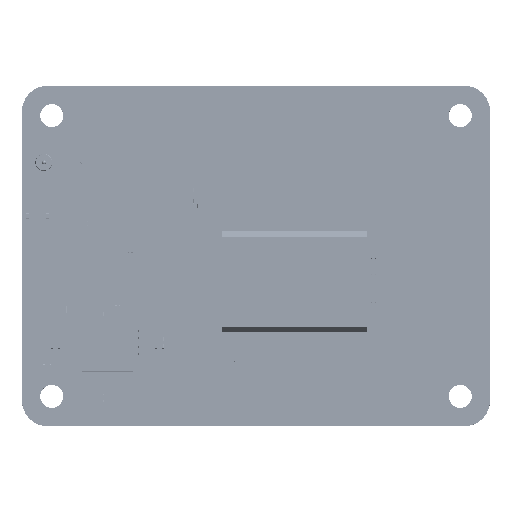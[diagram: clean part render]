
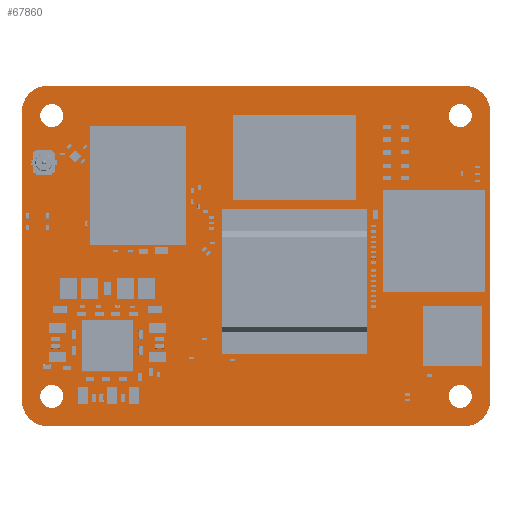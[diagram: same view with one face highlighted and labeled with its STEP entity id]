
A CAD part, top view. The second image highlights one B-rep face of the part: STEP entity #67860.
In plain terms, the highlighted planar face has unit normal (0, 0, 1).
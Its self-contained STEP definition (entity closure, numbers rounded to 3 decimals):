
#67860=ADVANCED_FACE('',(#97065,#97066,#97067,#97068,#97069),#97070,.T.);
#97065=FACE_OUTER_BOUND('',#130393,.T.);
#97066=FACE_BOUND('',#130394,.T.);
#97067=FACE_BOUND('',#130395,.T.);
#97068=FACE_BOUND('',#130396,.T.);
#97069=FACE_BOUND('',#130397,.T.);
#97070=PLANE('',#130398);
#130393=EDGE_LOOP('',(#163077,#163078,#163079,#163080,#163081,#163082,#163083,#163084));
#130394=EDGE_LOOP('',(#163085,#163086));
#130395=EDGE_LOOP('',(#163087,#163088));
#130396=EDGE_LOOP('',(#163089,#163090));
#130397=EDGE_LOOP('',(#163091,#163092));
#130398=AXIS2_PLACEMENT_3D('',#163093,#163094,#163095);
#163077=ORIENTED_EDGE('',*,*,#188045,.T.);
#163078=ORIENTED_EDGE('',*,*,#188046,.T.);
#163079=ORIENTED_EDGE('',*,*,#188047,.T.);
#163080=ORIENTED_EDGE('',*,*,#188048,.T.);
#163081=ORIENTED_EDGE('',*,*,#188049,.T.);
#163082=ORIENTED_EDGE('',*,*,#188050,.T.);
#163083=ORIENTED_EDGE('',*,*,#188051,.T.);
#163084=ORIENTED_EDGE('',*,*,#188052,.T.);
#163085=ORIENTED_EDGE('',*,*,#188053,.F.);
#163086=ORIENTED_EDGE('',*,*,#188032,.F.);
#163087=ORIENTED_EDGE('',*,*,#188054,.F.);
#163088=ORIENTED_EDGE('',*,*,#188036,.F.);
#163089=ORIENTED_EDGE('',*,*,#188055,.F.);
#163090=ORIENTED_EDGE('',*,*,#188040,.F.);
#163091=ORIENTED_EDGE('',*,*,#188056,.F.);
#163092=ORIENTED_EDGE('',*,*,#188044,.F.);
#163093=CARTESIAN_POINT('',(27.5,20.0,1.076));
#163094=DIRECTION('',(0.0,0.0,1.0));
#163095=DIRECTION('',(1.0,0.0,0.0));
#188032=EDGE_CURVE('',#221101,#221097,#221103,.T.);
#188036=EDGE_CURVE('',#221109,#221105,#221111,.T.);
#188040=EDGE_CURVE('',#221117,#221113,#221119,.T.);
#188044=EDGE_CURVE('',#221125,#221121,#221127,.T.);
#188045=EDGE_CURVE('',#221128,#221129,#221130,.T.);
#188046=EDGE_CURVE('',#221129,#221131,#221132,.T.);
#188047=EDGE_CURVE('',#221131,#221133,#221134,.T.);
#188048=EDGE_CURVE('',#221133,#221135,#221136,.T.);
#188049=EDGE_CURVE('',#221135,#221137,#221138,.T.);
#188050=EDGE_CURVE('',#221137,#221139,#221140,.T.);
#188051=EDGE_CURVE('',#221139,#221141,#221142,.T.);
#188052=EDGE_CURVE('',#221141,#221128,#221143,.T.);
#188053=EDGE_CURVE('',#221097,#221101,#221144,.T.);
#188054=EDGE_CURVE('',#221105,#221109,#221145,.T.);
#188055=EDGE_CURVE('',#221113,#221117,#221146,.T.);
#188056=EDGE_CURVE('',#221121,#221125,#221147,.T.);
#221097=VERTEX_POINT('',#246927);
#221101=VERTEX_POINT('',#246932);
#221103=CIRCLE('',#246935,1.35);
#221105=VERTEX_POINT('',#246937);
#221109=VERTEX_POINT('',#246942);
#221111=CIRCLE('',#246945,1.35);
#221113=VERTEX_POINT('',#246947);
#221117=VERTEX_POINT('',#246952);
#221119=CIRCLE('',#246955,1.35);
#221121=VERTEX_POINT('',#246957);
#221125=VERTEX_POINT('',#246962);
#221127=CIRCLE('',#246965,1.35);
#221128=VERTEX_POINT('',#246966);
#221129=VERTEX_POINT('',#246967);
#221130=LINE('',#246968,#246969);
#221131=VERTEX_POINT('',#246970);
#221132=CIRCLE('',#246971,3.0);
#221133=VERTEX_POINT('',#246972);
#221134=LINE('',#246973,#246974);
#221135=VERTEX_POINT('',#246975);
#221136=CIRCLE('',#246976,3.0);
#221137=VERTEX_POINT('',#246977);
#221138=LINE('',#246978,#246979);
#221139=VERTEX_POINT('',#246980);
#221140=CIRCLE('',#246981,3.0);
#221141=VERTEX_POINT('',#246982);
#221142=LINE('',#246983,#246984);
#221143=CIRCLE('',#246985,3.0);
#221144=CIRCLE('',#246986,1.35);
#221145=CIRCLE('',#246987,1.35);
#221146=CIRCLE('',#246988,1.35);
#221147=CIRCLE('',#246989,1.35);
#246927=CARTESIAN_POINT('',(2.15,3.5,1.076));
#246932=CARTESIAN_POINT('',(4.85,3.5,1.076));
#246935=AXIS2_PLACEMENT_3D('',#253892,#253893,#253894);
#246937=CARTESIAN_POINT('',(50.15,3.5,1.076));
#246942=CARTESIAN_POINT('',(52.85,3.5,1.076));
#246945=AXIS2_PLACEMENT_3D('',#253900,#253901,#253902);
#246947=CARTESIAN_POINT('',(2.15,36.5,1.076));
#246952=CARTESIAN_POINT('',(4.85,36.5,1.076));
#246955=AXIS2_PLACEMENT_3D('',#253908,#253909,#253910);
#246957=CARTESIAN_POINT('',(50.15,36.5,1.076));
#246962=CARTESIAN_POINT('',(52.85,36.5,1.076));
#246965=AXIS2_PLACEMENT_3D('',#253916,#253917,#253918);
#246966=CARTESIAN_POINT('',(52.0,40.0,1.076));
#246967=CARTESIAN_POINT('',(3.0,40.0,1.076));
#246968=CARTESIAN_POINT('',(27.5,40.0,1.076));
#246969=VECTOR('',#253919,1.0);
#246970=CARTESIAN_POINT('',(0.0,37.0,1.076));
#246971=AXIS2_PLACEMENT_3D('',#253920,#253921,#253922);
#246972=CARTESIAN_POINT('',(0.0,3.0,1.076));
#246973=CARTESIAN_POINT('',(0.0,20.0,1.076));
#246974=VECTOR('',#253923,1.0);
#246975=CARTESIAN_POINT('',(3.0,0.0,1.076));
#246976=AXIS2_PLACEMENT_3D('',#253924,#253925,#253926);
#246977=CARTESIAN_POINT('',(52.0,0.0,1.076));
#246978=CARTESIAN_POINT('',(27.5,0.0,1.076));
#246979=VECTOR('',#253927,1.0);
#246980=CARTESIAN_POINT('',(55.0,3.0,1.076));
#246981=AXIS2_PLACEMENT_3D('',#253928,#253929,#253930);
#246982=CARTESIAN_POINT('',(55.0,37.0,1.076));
#246983=CARTESIAN_POINT('',(55.0,20.0,1.076));
#246984=VECTOR('',#253931,1.0);
#246985=AXIS2_PLACEMENT_3D('',#253932,#253933,#253934);
#246986=AXIS2_PLACEMENT_3D('',#253935,#253936,#253937);
#246987=AXIS2_PLACEMENT_3D('',#253938,#253939,#253940);
#246988=AXIS2_PLACEMENT_3D('',#253941,#253942,#253943);
#246989=AXIS2_PLACEMENT_3D('',#253944,#253945,#253946);
#253892=CARTESIAN_POINT('',(3.5,3.5,1.076));
#253893=DIRECTION('',(0.0,0.0,1.0));
#253894=DIRECTION('',(-1.0,0.0,0.0));
#253900=CARTESIAN_POINT('',(51.5,3.5,1.076));
#253901=DIRECTION('',(0.0,0.0,1.0));
#253902=DIRECTION('',(-1.0,0.0,0.0));
#253908=CARTESIAN_POINT('',(3.5,36.5,1.076));
#253909=DIRECTION('',(0.0,0.0,1.0));
#253910=DIRECTION('',(-1.0,0.0,0.0));
#253916=CARTESIAN_POINT('',(51.5,36.5,1.076));
#253917=DIRECTION('',(0.0,0.0,1.0));
#253918=DIRECTION('',(-1.0,0.0,0.0));
#253919=DIRECTION('',(-1.0,0.0,0.0));
#253920=CARTESIAN_POINT('',(3.0,37.0,1.076));
#253921=DIRECTION('',(0.0,-0.0,1.0));
#253922=DIRECTION('',(0.0,1.0,0.0));
#253923=DIRECTION('',(0.0,-1.0,0.0));
#253924=CARTESIAN_POINT('',(3.0,3.0,1.076));
#253925=DIRECTION('',(0.0,0.0,1.0));
#253926=DIRECTION('',(-1.0,0.0,0.0));
#253927=DIRECTION('',(1.0,0.0,0.0));
#253928=CARTESIAN_POINT('',(52.0,3.0,1.076));
#253929=DIRECTION('',(0.0,0.0,1.0));
#253930=DIRECTION('',(0.0,-1.0,0.0));
#253931=DIRECTION('',(0.0,1.0,0.0));
#253932=CARTESIAN_POINT('',(52.0,37.0,1.076));
#253933=DIRECTION('',(0.0,0.0,1.0));
#253934=DIRECTION('',(1.0,0.0,0.0));
#253935=CARTESIAN_POINT('',(3.5,3.5,1.076));
#253936=DIRECTION('',(0.0,0.0,1.0));
#253937=DIRECTION('',(-1.0,0.0,0.0));
#253938=CARTESIAN_POINT('',(51.5,3.5,1.076));
#253939=DIRECTION('',(0.0,0.0,1.0));
#253940=DIRECTION('',(-1.0,0.0,0.0));
#253941=CARTESIAN_POINT('',(3.5,36.5,1.076));
#253942=DIRECTION('',(0.0,0.0,1.0));
#253943=DIRECTION('',(-1.0,0.0,0.0));
#253944=CARTESIAN_POINT('',(51.5,36.5,1.076));
#253945=DIRECTION('',(0.0,0.0,1.0));
#253946=DIRECTION('',(-1.0,0.0,0.0));
